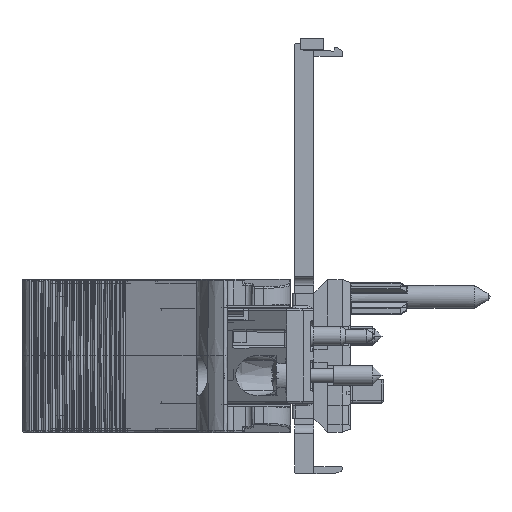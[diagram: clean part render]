
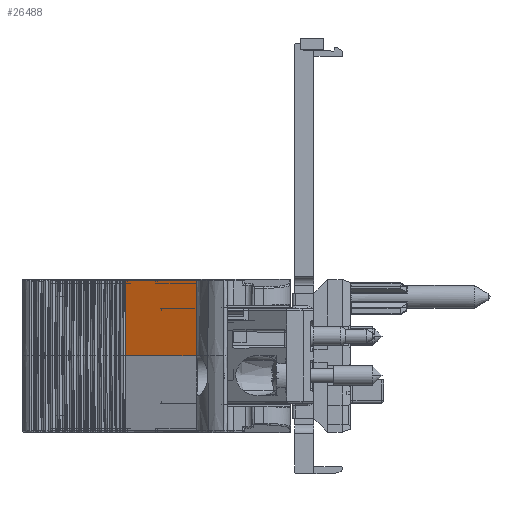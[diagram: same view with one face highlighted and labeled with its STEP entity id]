
A CAD part, front view. The second image highlights one B-rep face of the part: STEP entity #26488.
In plain terms, the highlighted planar face has unit normal (-0.391, -0.92, 0.009) as drawn and (0.391, -0.92, -0.009) by its records, which use the part's own axes.
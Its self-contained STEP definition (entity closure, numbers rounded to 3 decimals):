
#2596=B_SPLINE_CURVE_WITH_KNOTS('',3,(#147978,#147979,#147980,#147981),
 .UNSPECIFIED.,.F.,.F.,(4,4),(0.,1.),.UNSPECIFIED.);
#26488=ADVANCED_FACE('',(#32082),#28845,.T.);
#28845=PLANE('',#93495);
#32082=FACE_OUTER_BOUND('',#36325,.T.);
#36325=EDGE_LOOP('',(#60870,#60871,#60872,#60873));
#41066=LINE('',#146951,#45998);
#41120=LINE('',#147975,#46052);
#41121=LINE('',#147977,#46053);
#45998=VECTOR('',#107305,1.);
#46052=VECTOR('',#107625,1.);
#46053=VECTOR('',#107626,1.);
#60870=ORIENTED_EDGE('',*,*,#82400,.F.);
#60871=ORIENTED_EDGE('',*,*,#82232,.T.);
#60872=ORIENTED_EDGE('',*,*,#82401,.T.);
#60873=ORIENTED_EDGE('',*,*,#82402,.F.);
#72414=VERTEX_POINT('',#143629);
#73040=VERTEX_POINT('',#146948);
#73041=VERTEX_POINT('',#146950);
#73135=VERTEX_POINT('',#147976);
#82232=EDGE_CURVE('',#73040,#73041,#41066,.T.);
#82400=EDGE_CURVE('',#73040,#73135,#41120,.T.);
#82401=EDGE_CURVE('',#73041,#72414,#41121,.T.);
#82402=EDGE_CURVE('',#73135,#72414,#2596,.T.);
#93495=AXIS2_PLACEMENT_3D('',#147982,#107627,#107628);
#107305=DIRECTION('',(-0.005,-0.011,1.));
#107625=DIRECTION('',(-0.921,-0.391,0.));
#107626=DIRECTION('',(-0.921,-0.391,0.));
#107627=DIRECTION('',(0.391,-0.92,-0.009));
#107628=DIRECTION('',(0.,-0.009,1.));
#143629=CARTESIAN_POINT('',(-38.519,-47.517,9.85));
#146948=CARTESIAN_POINT('',(-29.272,-43.5,0.148));
#146950=CARTESIAN_POINT('',(-29.317,-43.611,9.85));
#146951=CARTESIAN_POINT('',(-29.272,-43.5,0.148));
#147975=CARTESIAN_POINT('',(-29.088,-43.422,0.148));
#147976=CARTESIAN_POINT('',(-38.614,-47.466,0.149));
#147977=CARTESIAN_POINT('',(-28.857,-43.416,9.85));
#147978=CARTESIAN_POINT('',(-38.614,-47.466,0.149));
#147979=CARTESIAN_POINT('',(-38.583,-47.483,3.383));
#147980=CARTESIAN_POINT('',(-38.551,-47.5,6.616));
#147981=CARTESIAN_POINT('',(-38.519,-47.517,9.85));
#147982=CARTESIAN_POINT('',(-28.857,-43.416,9.88));
